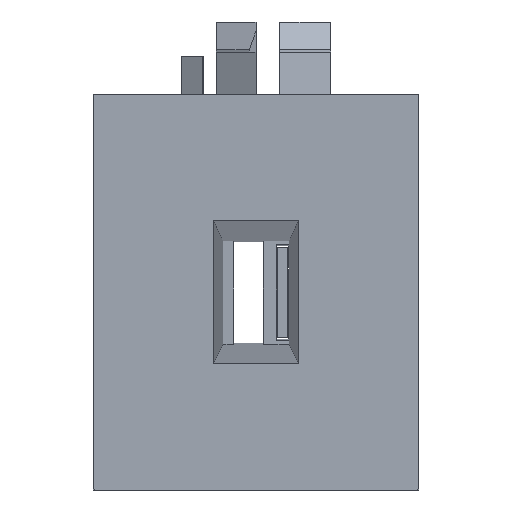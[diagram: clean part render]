
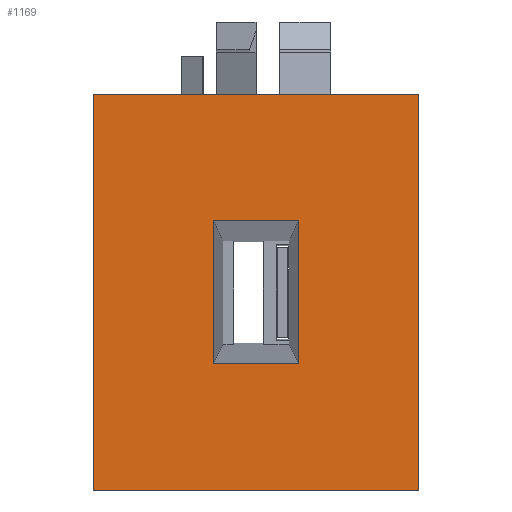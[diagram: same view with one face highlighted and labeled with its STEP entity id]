
A CAD part, top view. The second image highlights one B-rep face of the part: STEP entity #1169.
In plain terms, the highlighted planar face has unit normal (0, 0, 1).
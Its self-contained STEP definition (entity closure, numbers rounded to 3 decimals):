
#19 = ORIENTED_EDGE ( 'NONE', *, *, #741, .T. ) ;
#56 = LINE ( 'NONE', #2891, #1781 ) ;
#215 = VECTOR ( 'NONE', #2730, 1000. ) ;
#231 = VECTOR ( 'NONE', #450, 1000. ) ;
#279 = ORIENTED_EDGE ( 'NONE', *, *, #351, .F. ) ;
#309 = EDGE_CURVE ( 'NONE', #1956, #1037, #3344, .T. ) ;
#343 = LINE ( 'NONE', #1928, #2319 ) ;
#351 = EDGE_CURVE ( 'NONE', #1956, #2271, #1775, .T. ) ;
#450 = DIRECTION ( 'NONE',  ( 0., -1., 0. ) ) ;
#469 = CARTESIAN_POINT ( 'NONE',  ( -12.345, 15., -1.1 ) ) ;
#500 = DIRECTION ( 'NONE',  ( -1., 0., 0. ) ) ;
#508 = VECTOR ( 'NONE', #598, 1000. ) ;
#598 = DIRECTION ( 'NONE',  ( 1., 0., 0. ) ) ;
#722 = ORIENTED_EDGE ( 'NONE', *, *, #3269, .F. ) ;
#724 = VECTOR ( 'NONE', #500, 1000. ) ;
#741 = EDGE_CURVE ( 'NONE', #2955, #1696, #1325, .T. ) ;
#826 = DIRECTION ( 'NONE',  ( 0., -1., 0. ) ) ;
#984 = ORIENTED_EDGE ( 'NONE', *, *, #1419, .F. ) ;
#989 = CARTESIAN_POINT ( 'NONE',  ( 3.246, 5.443, -1.1 ) ) ;
#1013 = EDGE_LOOP ( 'NONE', ( #19, #984, #1531, #2123 ) ) ;
#1031 = EDGE_LOOP ( 'NONE', ( #1349, #1990, #722, #279 ) ) ;
#1037 = VERTEX_POINT ( 'NONE', #2059 ) ;
#1072 = CARTESIAN_POINT ( 'NONE',  ( 12.345, 15., -1.1 ) ) ;
#1110 = CARTESIAN_POINT ( 'NONE',  ( 13.568, 15., -1.1 ) ) ;
#1169 = ADVANCED_FACE ( 'NONE', ( #1632, #1924 ), #2956, .F. ) ;
#1191 = VERTEX_POINT ( 'NONE', #2668 ) ;
#1213 = VERTEX_POINT ( 'NONE', #2777 ) ;
#1245 = DIRECTION ( 'NONE',  ( 1., 0., 0. ) ) ;
#1325 = LINE ( 'NONE', #1879, #508 ) ;
#1349 = ORIENTED_EDGE ( 'NONE', *, *, #309, .T. ) ;
#1419 = EDGE_CURVE ( 'NONE', #2462, #1696, #2575, .T. ) ;
#1421 = CARTESIAN_POINT ( 'NONE',  ( -3.246, 5.443, -1.1 ) ) ;
#1443 = LINE ( 'NONE', #469, #231 ) ;
#1531 = ORIENTED_EDGE ( 'NONE', *, *, #2698, .F. ) ;
#1632 = FACE_BOUND ( 'NONE', #1031, .T. ) ;
#1665 = DIRECTION ( 'NONE',  ( 0., -1., 0. ) ) ;
#1696 = VERTEX_POINT ( 'NONE', #2968 ) ;
#1775 = LINE ( 'NONE', #2811, #724 ) ;
#1781 = VECTOR ( 'NONE', #1245, 1000. ) ;
#1803 = CARTESIAN_POINT ( 'NONE',  ( 3.246, 15., -1.1 ) ) ;
#1879 = CARTESIAN_POINT ( 'NONE',  ( 13.568, -15., -1.1 ) ) ;
#1924 = FACE_OUTER_BOUND ( 'NONE', #1013, .T. ) ;
#1928 = CARTESIAN_POINT ( 'NONE',  ( -3.246, 3.533, -1.1 ) ) ;
#1936 = EDGE_CURVE ( 'NONE', #1037, #1191, #3306, .T. ) ;
#1956 = VERTEX_POINT ( 'NONE', #989 ) ;
#1990 = ORIENTED_EDGE ( 'NONE', *, *, #1936, .T. ) ;
#2059 = CARTESIAN_POINT ( 'NONE',  ( 3.246, -5.443, -1.1 ) ) ;
#2123 = ORIENTED_EDGE ( 'NONE', *, *, #2986, .T. ) ;
#2139 = DIRECTION ( 'NONE',  ( 0., 0., -1. ) ) ;
#2235 = CARTESIAN_POINT ( 'NONE',  ( -12.345, -15., -1.1 ) ) ;
#2271 = VERTEX_POINT ( 'NONE', #1421 ) ;
#2319 = VECTOR ( 'NONE', #2909, 1000. ) ;
#2462 = VERTEX_POINT ( 'NONE', #2626 ) ;
#2575 = LINE ( 'NONE', #1072, #2750 ) ;
#2626 = CARTESIAN_POINT ( 'NONE',  ( 12.345, 15., -1.1 ) ) ;
#2668 = CARTESIAN_POINT ( 'NONE',  ( -3.246, -5.443, -1.1 ) ) ;
#2698 = EDGE_CURVE ( 'NONE', #1213, #2462, #56, .T. ) ;
#2730 = DIRECTION ( 'NONE',  ( -1., 0., 0. ) ) ;
#2750 = VECTOR ( 'NONE', #826, 1000. ) ;
#2777 = CARTESIAN_POINT ( 'NONE',  ( -12.345, 15., -1.1 ) ) ;
#2811 = CARTESIAN_POINT ( 'NONE',  ( 0., 5.443, -1.1 ) ) ;
#2891 = CARTESIAN_POINT ( 'NONE',  ( 13.568, 15., -1.1 ) ) ;
#2909 = DIRECTION ( 'NONE',  ( 0., -1., 0. ) ) ;
#2955 = VERTEX_POINT ( 'NONE', #2235 ) ;
#2956 = PLANE ( 'NONE',  #3084 ) ;
#2968 = CARTESIAN_POINT ( 'NONE',  ( 12.345, -15., -1.1 ) ) ;
#2986 = EDGE_CURVE ( 'NONE', #1213, #2955, #1443, .T. ) ;
#3084 = AXIS2_PLACEMENT_3D ( 'NONE', #1110, #2139, #1665 ) ;
#3108 = DIRECTION ( 'NONE',  ( 0., -1., 0. ) ) ;
#3202 = VECTOR ( 'NONE', #3108, 1000. ) ;
#3269 = EDGE_CURVE ( 'NONE', #2271, #1191, #343, .T. ) ;
#3273 = CARTESIAN_POINT ( 'NONE',  ( 0., -5.443, -1.1 ) ) ;
#3306 = LINE ( 'NONE', #3273, #215 ) ;
#3344 = LINE ( 'NONE', #1803, #3202 ) ;
